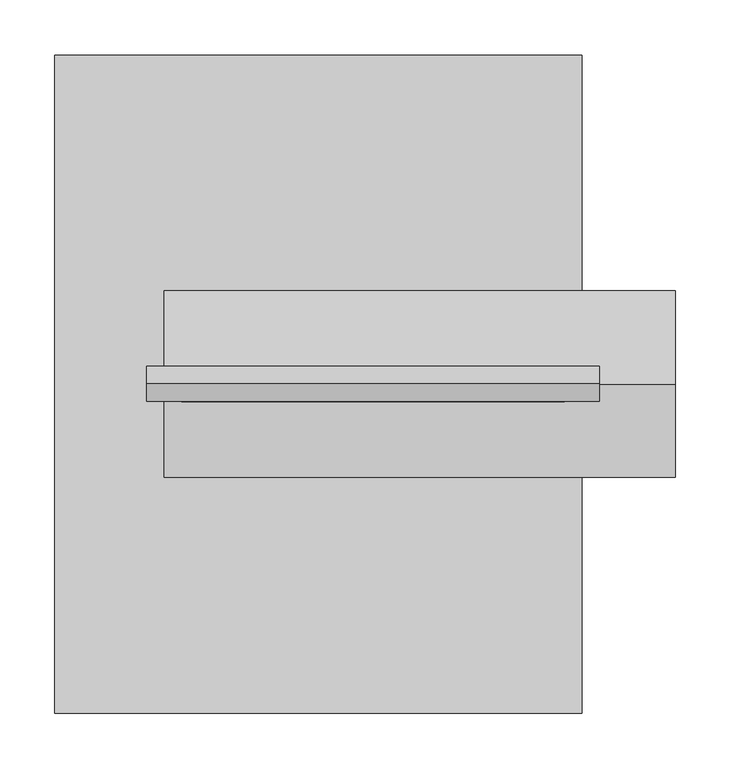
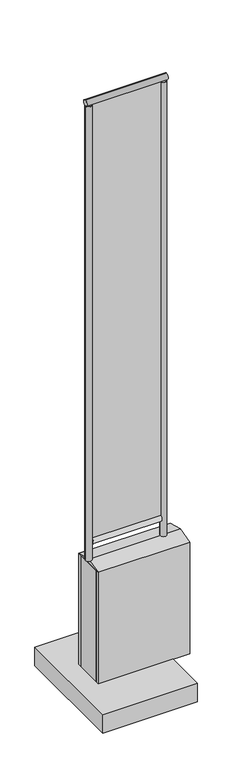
"""IFC4 building model written with IfcOpenShell, lengths in millimetres: plate geometry, FDE_FQ01_FechamentoParaQuadradeEsportes : FQ01_LateraisSapata."""

from ifc_helpers import new_model, si_unit, point, frame, frame_2d, origin, place, context, project, spatial, polyline, circle_curve, trimmed, segment, composite_curve, outline, extrude, source, transform, mapped, element, save


def plate_ba95d4eb(model_context):
    return source(origin(), model_context, "Body", "SweptSolid", [
        extrude(outline(composite_curve([segment(trimmed(circle_curve(frame_2d((-190.6494743, 0.0)), 16.0), [point((-206.6494743, 0.0))], [point((-174.6494743, 0.0))], False, "CARTESIAN"), True, "CONTINUOUS"), segment(trimmed(circle_curve(frame_2d((-190.6494743, 0.0)), 16.0), [point((-174.6494743, 0.0))], [point((-206.6494743, 0.0))], False, "CARTESIAN"), True, "CONTINUOUS")], self_intersect=False)), frame((0.0, 0.0, 920.0), z_axis=(0.0, 0.0, 1.0), x_axis=(1.0, 0.0, 0.0)), (0.0, 0.0, 1.0), 2448.0),
        extrude(outline(composite_curve([segment(trimmed(circle_curve(frame_2d((190.6494743, 0.0)), 16.0), [point((174.6494743, 0.0))], [point((206.6494743, 0.0))], False, "CARTESIAN"), True, "CONTINUOUS"), segment(trimmed(circle_curve(frame_2d((190.6494743, 0.0)), 16.0), [point((206.6494743, 0.0))], [point((174.6494743, 0.0))], False, "CARTESIAN"), True, "CONTINUOUS")], self_intersect=False)), frame((0.0, 0.0, 920.0), z_axis=(0.0, 0.0, 1.0), x_axis=(1.0, 0.0, 0.0)), (0.0, 0.0, 1.0), 2448.0),
        extrude(outline(polyline([(190.6494743, 300.0), (190.6494743, -300.0), (-290.6494743, -300.0), (-290.6494743, 300.0), (190.6494743, 300.0)])), frame((0.0, 0.0, 200.0), z_axis=(0.0, 0.0, 1.0), x_axis=(1.0, 0.0, 0.0)), (0.0, 0.0, 1.0), 100.0),
        extrude(outline(polyline([(85.0, 900.0), (-85.0, 900.0), (0.0, 920.0), (85.0, 900.0)])), frame((-190.6494743, 0.0, 0.0), z_axis=(1.0, 0.0, 0.0), x_axis=(0.0, 1.0, 0.0)), (0.0, 0.0, 1.0), 466.2989486),
        extrude(outline(polyline([(-190.6494743, -85.0), (-190.6494743, -70.0), (275.6494743, -70.0), (275.6494743, -85.0), (-190.6494743, -85.0)])), frame((0.0, 0.0, 300.0), z_axis=(0.0, 0.0, 1.0), x_axis=(1.0, 0.0, 0.0)), (0.0, 0.0, 1.0), 600.0),
        extrude(outline(polyline([(-190.6494743, 70.0), (-190.6494743, 85.0), (275.6494743, 85.0), (275.6494743, 70.0), (-190.6494743, 70.0)])), frame((0.0, 0.0, 300.0), z_axis=(0.0, 0.0, 1.0), x_axis=(1.0, 0.0, 0.0)), (0.0, 0.0, 1.0), 600.0),
        extrude(outline(polyline([(275.6494743, 70.0), (275.6494743, -70.0), (-190.6494743, -70.0), (-190.6494743, 70.0), (275.6494743, 70.0)])), frame((0.0, 0.0, 300.0), z_axis=(0.0, 0.0, 1.0), x_axis=(1.0, 0.0, 0.0)), (0.0, 0.0, 1.0), 600.0),
        extrude(outline(polyline([(174.6494743, -5.0), (-174.6494743, -5.0), (-174.6494743, 5.0), (174.6494743, 5.0), (174.6494743, -5.0)])), frame((0.0, 0.0, 1032.0), z_axis=(0.0, 0.0, 1.0), x_axis=(1.0, 0.0, 0.0)), (0.0, 0.0, 1.0), 2336.0),
        extrude(outline(composite_curve([segment(trimmed(circle_curve(frame_2d((0.0, 1016.0)), 16.0), [point((0.0, 1032.0))], [point((0.0, 1000.0))], False, "CARTESIAN"), True, "CONTINUOUS"), segment(trimmed(circle_curve(frame_2d((0.0, 1016.0)), 16.0), [point((0.0, 1000.0))], [point((0.0, 1032.0))], False, "CARTESIAN"), True, "CONTINUOUS")], self_intersect=False)), frame((-174.6494743, 0.0, 0.0), z_axis=(1.0, 0.0, 0.0), x_axis=(0.0, 1.0, 0.0)), (0.0, 0.0, 1.0), 349.2989486),
        extrude(outline(composite_curve([segment(trimmed(circle_curve(frame_2d((0.0, 3384.0)), 16.0), [point((0.0, 3368.0))], [point((0.0, 3400.0))], False, "CARTESIAN"), True, "CONTINUOUS"), segment(trimmed(circle_curve(frame_2d((0.0, 3384.0)), 16.0), [point((0.0, 3400.0))], [point((0.0, 3368.0))], False, "CARTESIAN"), True, "CONTINUOUS")], self_intersect=False)), frame((-206.6494743, 0.0, 0.0), z_axis=(1.0, 0.0, 0.0), x_axis=(0.0, 1.0, 0.0)), (0.0, 0.0, 1.0), 413.2989486),
    ])


if __name__ == "__main__":
    model = new_model("IFC4")
    model_context = context("Model", 3, world=origin())
    ifc_project = project(units=[si_unit("LENGTHUNIT", "METRE", prefix="MILLI")], contexts=[model_context])
    site = spatial("IfcSite", under=ifc_project)
    building = spatial("IfcBuilding", under=site)
    placement = place(None, origin())
    plate_shape = plate_ba95d4eb(model_context)
    element("IfcPlate", 1, ObjectType="FDE_FQ01_FechamentoParaQuadradeEsportes : FQ01_LateraisSapata", at=placement, inside=building, context=model_context, shape_type="MappedRepresentation", body=[
        mapped(plate_shape, transform((0.0, 0.0, 0.0), x_axis=(1.0, 0.0, 0.0), y_axis=(0.0, 1.0, 0.0), z_axis=(0.0, 0.0, 1.0))),
    ])
    save(model, "model.ifc")
